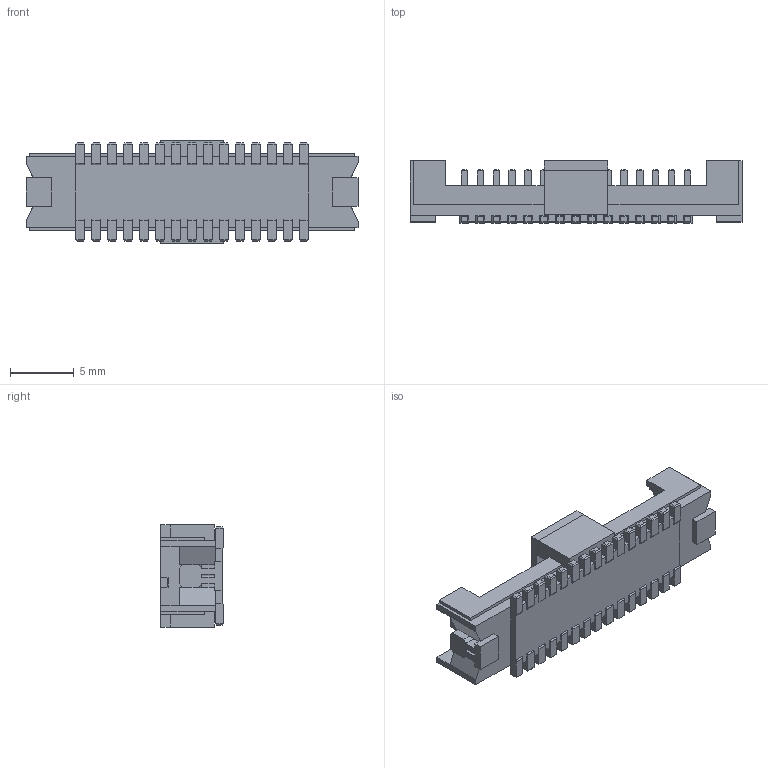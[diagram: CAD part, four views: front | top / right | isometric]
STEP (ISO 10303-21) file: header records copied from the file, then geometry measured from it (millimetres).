
FILE_DESCRIPTION (( 'STEP AP214' ), '1' );
FILE_NAME ('5p_assem.STEP', '2015-08-26T15:57:55', ( '' ), ( '' ), 'SwSTEP 2.0', 'SolidWorks 2015', '' );
FILE_SCHEMA (( 'AUTOMOTIVE_DESIGN' ));
Length unit declared in the file: millimetre
Products named in the file (4): pin_bot; pin_top; 5p_adapter; 5p_assem
Assembly tree (61 placements, depth 2):
  5p_assem
    5p_adapter
    pin_top  x30
    pin_bot  x30
Bounding box: 26 x 4.9 x 8 mm (x, y, z)
Volume: 368.2 mm3; surface area: 1237.3 mm2
Topology: 62 solids, 62 shells, 1046 faces, 2426 edges, 1528 vertices
Faces by surface type: plane 1014, cylinder 32
Entity records: 14014 total; most frequent: CARTESIAN_POINT 2454, ORIENTED_EDGE 2358, DIRECTION 2187, EDGE_CURVE 1179, LINE 1173, VECTOR 1173, VERTEX_POINT 774, AXIS2_PLACEMENT_3D 507
